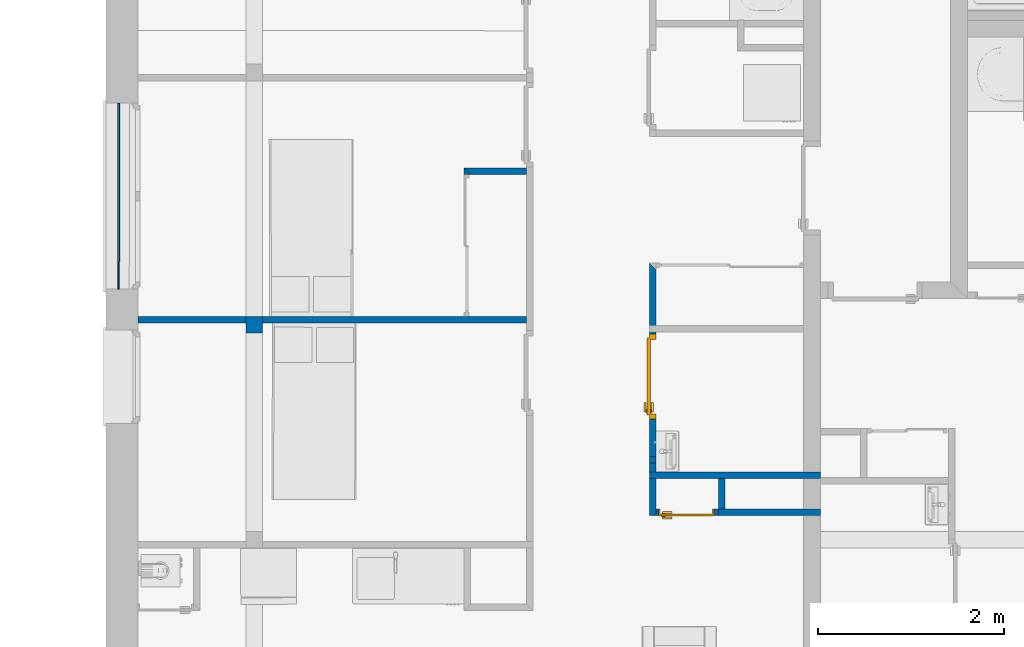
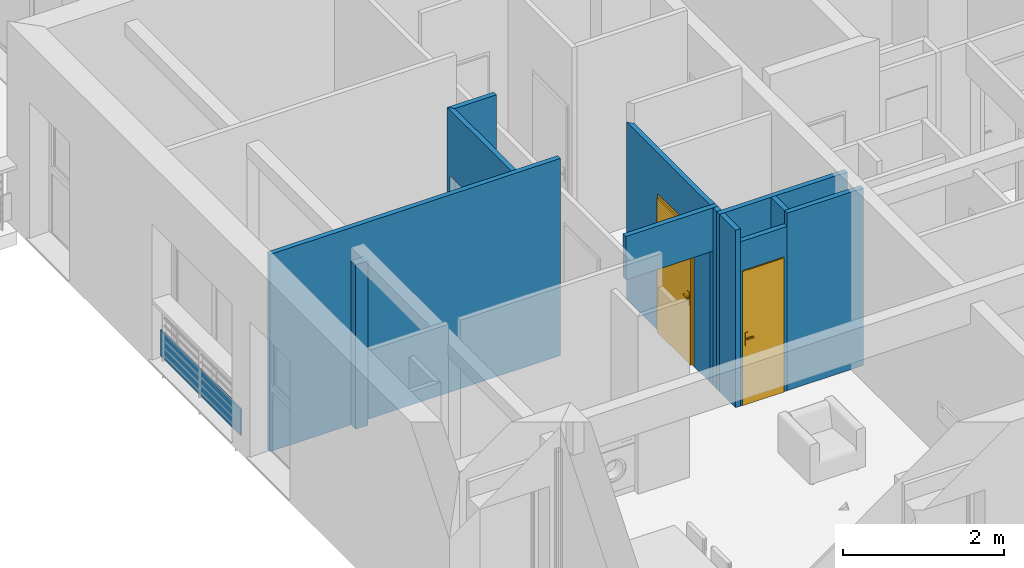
# One storey, part 11 of 165: 11 walls, 2 doors, 4 openings.
"""IFC2X3 building model written with IfcOpenShell, lengths in millimetres."""

from ifc_helpers import new_model, entity, si_unit, converted_unit, derived_unit, money_unit, direction, frame, origin_with_axes, origin_2d_with_axis, place, context, subcontext, project, spatial, polyline, rectangle, outline, extrude, faceted_brep, source, transform, mapped, material, layer, layer_set, layer_usage, type_object, element, fill, save


model = new_model("IFC2X3")

# Units and contexts
model_context = context("Model", 3, precision=0.01, world=origin_with_axes(), true_north=direction((0.0, 1.0)))
body_context = subcontext(model_context, "Body", "Model", "MODEL_VIEW")
ifc_project = project(units=[si_unit("LENGTHUNIT", "METRE", prefix="MILLI"), si_unit("AREAUNIT", "SQUARE_METRE"), si_unit("VOLUMEUNIT", "CUBIC_METRE"), converted_unit("PLANEANGLEUNIT", "DEGREE", entity("IfcPlaneAngleMeasure", 0.0174532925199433), si_unit("PLANEANGLEUNIT", "RADIAN"), dimensions=[0, 0, 0, 0, 0, 0, 0]), money_unit("USD"), converted_unit("TIMEUNIT", "Year", entity("IfcTimeMeasure", 31557600.0), si_unit("TIMEUNIT", "SECOND"), dimensions=[0, 0, 1, 0, 0, 0, 0]), si_unit("MASSUNIT", "GRAM", prefix="KILO"), si_unit("THERMODYNAMICTEMPERATUREUNIT", "DEGREE_CELSIUS"), si_unit("LUMINOUSINTENSITYUNIT", "LUMEN"), si_unit("ENERGYUNIT", "JOULE", prefix="MEGA"), derived_unit("THERMALCONDUCTANCEUNIT", [(si_unit("POWERUNIT", "WATT"), 1), (si_unit("LENGTHUNIT", "METRE"), -1), (si_unit("THERMODYNAMICTEMPERATUREUNIT", "KELVIN"), -1)]), derived_unit("SPECIFICHEATCAPACITYUNIT", [(si_unit("ENERGYUNIT", "JOULE"), 1), (si_unit("MASSUNIT", "GRAM", prefix="KILO"), -1), (si_unit("THERMODYNAMICTEMPERATUREUNIT", "KELVIN"), -1)]), derived_unit("MASSDENSITYUNIT", [(si_unit("MASSUNIT", "GRAM", prefix="KILO"), 1), (si_unit("VOLUMEUNIT", "CUBIC_METRE"), -1)])], contexts=[model_context])

# Site, building, storey
site_placement = place(None, origin_with_axes())
site = spatial("IfcSite", under=ifc_project, at=site_placement, Name="Site", CompositionType="ELEMENT")
building_placement = place(site_placement, origin_with_axes())
building = spatial("IfcBuilding", under=site, at=building_placement, Name="Bâtiment", CompositionType="ELEMENT")
storey_placement = place(building_placement, frame((0.0, 0.0, 8500.0), z_axis=(0.0, 0.0, 1.0), x_axis=(1.0, 0.0, 0.0)))
storey = spatial("IfcBuildingStorey", under=building, at=storey_placement, Name="Etage 2", CompositionType="ELEMENT", Elevation=8500.0)

# Wall
ifc_material_1 = material(Name="Hachure solide 268963992")
ifc_layer_1 = layer(ifc_material_1, 70.0, ventilated="UNKNOWN")
ifc_layer_set_1 = layer_set([ifc_layer_1], Name="Cloison 70 0826278243")
ifc_layer_usage_1 = layer_usage(ifc_layer_set_1, "AXIS2", "NEGATIVE", 70.0)
wall_type_1 = type_object("IfcWallType", Name="Cloison 70 0826278243 70", PredefinedType="NOTDEFINED")
wall_1_placement = place(storey_placement, frame((2221152.351167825, -649920.7866252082, 0.0), z_axis=(0.0, 0.0, 1.0), x_axis=(-1.0, 0.0, 0.0)))
element("IfcWallStandardCase", 1, at=wall_1_placement, inside=storey, type_object=wall_type_1, material=ifc_layer_usage_1, Name="Mur-149", context=body_context, shape_type="SweptSolid", body=[
    extrude(outline(polyline([(2.320837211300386e-05, 0.0), (4178.117826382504, 0.0), (4178.117826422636, 69.99999999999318), (2.348349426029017e-05, 69.99999999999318), (2.320837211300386e-05, 0.0)])), origin_with_axes(), (0.0, 0.0, 1.0), 3000.0),
])

# Wall, opening
ifc_layer_usage_2 = layer_usage(ifc_layer_set_1, "AXIS2", "NEGATIVE", 70.0)
wall_2_placement = place(storey_placement, frame((2220482.351167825, -648325.5587458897, 0.0), z_axis=(0.0, 0.0, 1.0), x_axis=(0.0, -1.0, 0.0)))
wall_2 = element("IfcWallStandardCase", 2, at=wall_2_placement, inside=storey, type_object=wall_type_1, material=ifc_layer_usage_2, Name="Mur-149", context=body_context, shape_type="SweptSolid", body=[
    extrude(outline(polyline([(0.0, 0.0), (1595.227879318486, 0.0), (1595.227879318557, 70.00000000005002), (70.00000000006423, 70.00000000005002), (0.0, 0.0)])), origin_with_axes(), (0.0, 0.0, 1.0), 3000.0),
])
opening_1_placement = place(wall_2_placement, frame((832.613939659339, 1.13686837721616e-09, 0.0), z_axis=(0.0, 0.0, 1.0), x_axis=(1.0, 0.0, 0.0)))
element("IfcOpeningElement", 3, at=opening_1_placement, cuts=wall_2, Name="Por-322", context=body_context, shape_type="SweptSolid", body=[
    extrude(rectangle(XDim=1525.227879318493, YDim=2000.0, at=origin_2d_with_axis()), frame((0.0, -9.094947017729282e-10, 1000.0), z_axis=(0.0, 1.0, 0.0), x_axis=(1.0, 0.0, 0.0)), (0.0, 0.0, -1.0), 70.0),
    extrude(rectangle(XDim=1525.227879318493, YDim=2000.0, at=origin_2d_with_axis()), frame((0.0, -9.094947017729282e-10, 1000.0), z_axis=(0.0, -1.0, 0.0), x_axis=(1.0, 0.0, 0.0)), (0.0, 0.0, -1.0), 70.0),
])

ifc_layer_usage_3 = layer_usage(ifc_layer_set_1, "AXIS2", "NEGATIVE", 70.0)
wall_3_placement = place(storey_placement, frame((2222542.351167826, -651428.3834312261, 0.0), z_axis=(0.0, 0.0, 1.0), x_axis=(-1.0, 0.0, 0.0)))
wall_3 = element("IfcWallStandardCase", 4, at=wall_3_placement, inside=storey, type_object=wall_type_1, material=ifc_layer_usage_3, Name="Mur-149", context=body_context, shape_type="SweptSolid", body=[
    extrude(outline(polyline([(0.0, 0.0), (1320.000029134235, 0.0), (1320.000029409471, 69.99999999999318), (0.0, 69.99999999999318), (0.0, 0.0)])), origin_with_axes(), (0.0, 0.0, 1.0), 2700.0),
])
opening_2_placement = place(wall_3_placement, frame((695.1363127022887, 0.0, 0.0), z_axis=(0.0, 0.0, 1.0), x_axis=(1.0, 0.0, 0.0)))
element("IfcOpeningElement", 5, at=opening_2_placement, cuts=wall_3, Name="Por-282", context=body_context, shape_type="SweptSolid", body=[
    extrude(rectangle(XDim=1249.727374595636, YDim=2039.999999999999, at=origin_2d_with_axis()), frame((0.0, 69.99999999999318, 1020.0), z_axis=(0.0, -1.0, 0.0), x_axis=(1.0, 0.0, 0.0)), (0.0, 0.0, -1.0), 70.0),
    extrude(rectangle(XDim=1249.727374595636, YDim=2039.999999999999, at=origin_2d_with_axis()), frame((0.0, 69.99999999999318, 1020.0), z_axis=(0.0, 1.0, 0.0), x_axis=(1.0, 0.0, 0.0)), (0.0, 0.0, -1.0), 70.0),
])

# Wall, opening, door
ifc_layer_usage_4 = layer_usage(ifc_layer_set_1, "AXIS2", "NEGATIVE", 70.0)
wall_4_placement = place(storey_placement, frame((2222472.351121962, -649348.3912270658, 0.0), z_axis=(0.0, 0.0, 1.0), x_axis=(-0.0001252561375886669, -0.99999999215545, 0.0)))
wall_4 = element("IfcWallStandardCase", 6, at=wall_4_placement, inside=storey, type_object=wall_type_1, material=ifc_layer_usage_4, Name="Mur-149", context=body_context, shape_type="SweptSolid", body=[
    extrude(outline(polyline([(0.0, 0.0), (2714.992225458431, 0.0), (2714.992225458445, 69.99999999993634), (69.9912326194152, 69.99999999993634), (0.0, 0.0)])), origin_with_axes(), (0.0, 0.0, 1.0), 2700.0),
])
opening_3_placement = place(wall_4_placement, frame((1220.391894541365, 0.0, 0.0), z_axis=(0.0, 0.0, 1.0), x_axis=(1.0, 0.0, 0.0)))
opening_3 = element("IfcOpeningElement", 7, at=opening_3_placement, cuts=wall_4, Name="Por-283", context=body_context, shape_type="SweptSolid", body=[
    extrude(rectangle(XDim=910.0, YDim=2080.0, at=origin_2d_with_axis()), frame((0.0, 69.99999999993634, 1039.999999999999), z_axis=(0.0, -1.0, 0.0), x_axis=(-1.0, 0.0, 0.0)), (0.0, 0.0, 1.0), 140.0),
])
door_style = type_object("IfcDoorStyle", Name="Porte_1v", ConstructionType="NOTDEFINED", OperationType="NOTDEFINED", ParameterTakesPrecedence=False, Sizeable=False)
shared_shape_1 = source(origin_with_axes(), body_context, "Body", "Brep", [
    faceted_brep([(454.9999999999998, 0.0, 0.0), (414.9999999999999, 0.0, 0.0), (414.9999999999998, 0.0, 2040.0), (-414.9999999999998, 0.0, 2040.0), (-414.9999999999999, 0.0, 0.0), (-454.9999999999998, 0.0, 0.0), (-454.9999999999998, 0.0, 2080.0), (454.9999999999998, 0.0, 2080.0), (454.9999999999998, -69.99999999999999, 0.0), (399.9999999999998, -69.99999999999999, 0.0), (399.9999999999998, -15.0, 0.0), (414.9999999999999, -15.0, 0.0), (414.9999999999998, -15.0, 2040.0), (-414.9999999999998, -15.0, 2040.0), (-414.9999999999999, -15.0, 0.0), (-399.9999999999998, -15.0, 0.0), (-399.9999999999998, -69.99999999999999, 0.0), (-454.9999999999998, -69.99999999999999, 0.0), (-454.9999999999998, -69.99999999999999, 2080.0), (454.9999999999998, -69.99999999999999, 2080.0), (-399.9999999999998, -69.99999999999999, 2025.0), (399.9999999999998, -69.99999999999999, 2025.0), (399.9999999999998, -15.0, 2025.0), (-399.9999999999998, -15.0, 2025.0)], [[[0, 1, 2, 3, 4, 5, 6, 7]], [[0, 8, 9, 10, 11, 1]], [[1, 11, 12, 2]], [[2, 12, 13, 3]], [[3, 13, 14, 4]], [[5, 4, 14, 15, 16, 17]], [[18, 6, 5, 17]], [[19, 7, 6, 18]], [[8, 0, 7, 19]], [[9, 8, 19, 18, 17, 16, 20, 21]], [[10, 9, 21, 22]], [[11, 10, 22, 23, 15, 14, 13, 12]], [[23, 20, 16, 15]], [[22, 21, 20, 23]]]),
    faceted_brep([(-349.9999999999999, -15.0, 900.0), (-389.9999999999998, -15.0, 900.0), (-389.9999999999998, -15.0, 1100.0), (-349.9999999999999, -15.0, 1100.0), (-349.9999999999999, -24.99999999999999, 900.0), (-389.9999999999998, -24.99999999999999, 900.0), (-389.9999999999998, -24.99999999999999, 1100.0), (-349.9999999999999, -24.99999999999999, 1100.0)], [[[0, 1, 2, 3]], [[1, 0, 4, 5]], [[2, 1, 5, 6]], [[3, 2, 6, 7]], [[0, 3, 7, 4]], [[5, 4, 7, 6]]]),
    faceted_brep([(-279.9999999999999, -24.99999999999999, 1000.0), (-379.9999999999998, -24.99999999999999, 1000.0), (-379.9999999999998, -24.99999999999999, 1020.0), (-279.9999999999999, -24.99999999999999, 1020.0), (-279.9999999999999, -44.99999999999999, 1000.0), (-379.9999999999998, -44.99999999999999, 1000.0), (-379.9999999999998, -44.99999999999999, 1020.0), (-279.9999999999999, -44.99999999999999, 1020.0)], [[[0, 1, 2, 3]], [[1, 0, 4, 5]], [[2, 1, 5, 6]], [[3, 2, 6, 7]], [[0, 3, 7, 4]], [[5, 4, 7, 6]]]),
    faceted_brep([(-349.9999999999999, 34.99999999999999, 900.0), (-389.9999999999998, 34.99999999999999, 900.0), (-389.9999999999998, 34.99999999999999, 1100.0), (-349.9999999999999, 34.99999999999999, 1100.0), (-349.9999999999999, 24.99999999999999, 900.0), (-389.9999999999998, 24.99999999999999, 900.0), (-389.9999999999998, 24.99999999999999, 1100.0), (-349.9999999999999, 24.99999999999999, 1100.0)], [[[0, 1, 2, 3]], [[1, 0, 4, 5]], [[2, 1, 5, 6]], [[3, 2, 6, 7]], [[0, 3, 7, 4]], [[5, 4, 7, 6]]]),
    faceted_brep([(-279.9999999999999, 54.99999999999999, 1000.0), (-379.9999999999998, 54.99999999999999, 1000.0), (-379.9999999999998, 54.99999999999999, 1020.0), (-279.9999999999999, 54.99999999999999, 1020.0), (-279.9999999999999, 34.99999999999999, 1000.0), (-379.9999999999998, 34.99999999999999, 1000.0), (-379.9999999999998, 34.99999999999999, 1020.0), (-279.9999999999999, 34.99999999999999, 1020.0)], [[[0, 1, 2, 3]], [[1, 0, 4, 5]], [[2, 1, 5, 6]], [[3, 2, 6, 7]], [[0, 3, 7, 4]], [[5, 4, 7, 6]]]),
    faceted_brep([(-414.9999999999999, 24.99999999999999, 0.0), (414.9999999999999, 24.99999999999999, 0.0), (414.9999999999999, -15.0, 0.0), (-414.9999999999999, -15.0, 0.0), (-414.9999999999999, 24.99999999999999, 2040.0), (414.9999999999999, 24.99999999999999, 2040.0), (414.9999999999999, -15.0, 2040.0), (-414.9999999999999, -15.0, 2040.0)], [[[0, 1, 2, 3]], [[0, 4, 5, 1]], [[1, 5, 6, 2]], [[3, 2, 6, 7]], [[4, 0, 3, 7]], [[5, 4, 7, 6]]]),
])
door_1_placement = place(opening_3_placement, frame((415.0000000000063, -1.13686837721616e-10, 0.0), z_axis=(0.0, 0.0, 1.0), x_axis=(-1.0, 0.0, 0.0)))
door_1 = element("IfcDoor", 8, at=door_1_placement, inside=storey, type_object=door_style, Name="Por-283", OverallHeight=2040.0, OverallWidth=830.0, context=body_context, shape_type="MappedRepresentation", body=[
    mapped(shared_shape_1, transform((415.0000000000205, 0.0, 0.0))),
])
fill(opening_3, door_1)

# Walls
ifc_layer_usage_5 = layer_usage(ifc_layer_set_1, "AXIS2", "NEGATIVE", 70.0)
wall_5_placement = place(storey_placement, frame((2221152.351167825, -648325.5587458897, 0.0), z_axis=(0.0, 0.0, 1.0), x_axis=(-1.0, 0.0, 0.0)))
element("IfcWallStandardCase", 9, at=wall_5_placement, inside=storey, type_object=wall_type_1, material=ifc_layer_usage_5, Name="Mur-149", context=body_context, shape_type="SweptSolid", body=[
    extrude(outline(polyline([(1.693797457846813e-05, 0.0), (669.9999999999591, 0.0), (599.9999999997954, 69.99999999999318), (1.721321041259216e-05, 69.99999999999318), (1.693797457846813e-05, 0.0)])), origin_with_axes(), (0.0, 0.0, 1.0), 3000.0),
])
ifc_layer_usage_6 = layer_usage(ifc_layer_set_1, "AXIS2", "NEGATIVE", 70.0)
wall_6_placement = place(storey_placement, frame((2224312.346626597, -651993.3834312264, 0.0), z_axis=(0.0, 0.0, 1.0), x_axis=(-1.0, 0.0, 0.0)))
element("IfcWallStandardCase", 10, at=wall_6_placement, inside=storey, type_object=wall_type_1, material=ifc_layer_usage_6, Name="Mur-149", context=body_context, shape_type="SweptSolid", body=[
    extrude(outline(polyline([(0.0, 0.0), (1096.672255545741, 0.0), (1096.672255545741, 69.99999999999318), (0.0, 69.99999999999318), (0.0, 0.0)])), origin_with_axes(), (0.0, 0.0, 1.0), 2700.0),
])
ifc_layer_usage_7 = layer_usage(ifc_layer_set_1, "AXIS2", "POSITIVE", -70.0)
wall_7_placement = place(storey_placement, frame((2223215.674371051, -651993.3834312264, 0.0), z_axis=(0.0, 0.0, 1.0), x_axis=(0.0, 1.0, 0.0)))
element("IfcWallStandardCase", 11, at=wall_7_placement, inside=storey, type_object=wall_type_1, material=ifc_layer_usage_7, Name="Mur-149", context=body_context, shape_type="SweptSolid", body=[
    extrude(outline(polyline([(0.0, -70.00000000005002), (330.0000000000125, -70.00000000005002), (330.0000000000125, 0.0), (0.0, 0.0), (0.0, -70.00000000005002)])), origin_with_axes(), (0.0, 0.0, 1.0), 2700.0),
])
ifc_layer_usage_8 = layer_usage(ifc_layer_set_1, "AXIS2", "NEGATIVE", 70.0)
wall_8_placement = place(storey_placement, frame((2224312.348514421, -651593.3834312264, 0.0), z_axis=(0.0, 0.0, 1.0), x_axis=(-1.0, 0.0, 0.0)))
element("IfcWallStandardCase", 12, at=wall_8_placement, inside=storey, type_object=wall_type_1, material=ifc_layer_usage_8, Name="Mur-149", context=body_context, shape_type="SweptSolid", body=[
    extrude(outline(polyline([(0.0, 0.0), (1840.291594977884, 0.0), (1840.291594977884, 69.99999999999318), (0.0, 69.99999999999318), (0.0, 0.0)])), origin_with_axes(), (0.0, 0.0, 1.0), 2700.0),
])

# Wall, opening, door
ifc_layer_usage_9 = layer_usage(ifc_layer_set_1, "AXIS2", "NEGATIVE", 70.0)
wall_9_placement = place(storey_placement, frame((2223215.674371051, -651993.3834312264, 0.0), z_axis=(0.0, 0.0, 1.0), x_axis=(-1.0, 0.0, 0.0)))
wall_9 = element("IfcWallStandardCase", 13, at=wall_9_placement, inside=storey, type_object=wall_type_1, material=ifc_layer_usage_9, Name="Mur-149", context=body_context, shape_type="SweptSolid", body=[
    extrude(outline(polyline([(0.0, 0.0), (673.6545500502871, 0.0), (673.663317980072, 69.99999999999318), (0.0, 69.99999999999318), (0.0, 0.0)])), origin_with_axes(), (0.0, 0.0, 1.0), 2500.0),
])
opening_4_placement = place(wall_9_placement, frame((345.8196076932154, 0.0, 0.0), z_axis=(0.0, 0.0, 1.0), x_axis=(1.0, 0.0, 0.0)))
opening_4 = element("IfcOpeningElement", 14, at=opening_4_placement, cuts=wall_9, Name="Por-274", context=body_context, shape_type="SweptSolid", body=[
    extrude(rectangle(XDim=600.0000000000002, YDim=2050.000000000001, at=origin_2d_with_axis()), frame((0.0, -69.99999999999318, 1025.0), z_axis=(0.0, -1.0, 0.0), x_axis=(-1.0, 0.0, 0.0)), (0.0, 0.0, -1.0), 140.0),
])
shared_shape_2 = source(origin_with_axes(), body_context, "Body", "Brep", [
    faceted_brep([(-300.0, 0.0, 0.0), (-300.0, 0.0, 2050.0), (300.0, 0.0, 2050.0), (300.0, 0.0, 0.0), (290.0, 0.0, 0.0), (290.0, 0.0, 2040.0), (-290.0, 0.0, 2040.0), (-290.0, 0.0, 0.0), (-300.0, -70.0, 0.0), (-300.0, -70.0, 2050.0), (300.0, -70.0, 2050.0), (300.0, -70.0, 0.0), (279.9999999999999, -70.0, 0.0), (279.9999999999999, -15.0, 0.0), (290.0, -15.0, 0.0), (290.0, -15.0, 2040.0), (-290.0, -15.0, 2040.0), (-290.0, -15.0, 0.0), (-279.9999999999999, -15.0, 0.0), (-279.9999999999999, -70.0, 0.0), (-279.9999999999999, -70.0, 2030.0), (279.9999999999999, -70.0, 2030.0), (279.9999999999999, -15.0, 2030.0), (-279.9999999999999, -15.0, 2030.0)], [[[0, 1, 2, 3, 4, 5, 6, 7]], [[8, 9, 1, 0]], [[9, 10, 2, 1]], [[10, 11, 3, 2]], [[3, 11, 12, 13, 14, 4]], [[5, 4, 14, 15]], [[6, 5, 15, 16]], [[7, 6, 16, 17]], [[0, 7, 17, 18, 19, 8]], [[19, 20, 21, 12, 11, 10, 9, 8]], [[22, 13, 12, 21]], [[17, 16, 15, 14, 13, 22, 23, 18]], [[18, 23, 20, 19]], [[23, 22, 21, 20]]]),
    faceted_brep([(224.9999999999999, -15.0, 900.0), (224.9999999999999, -15.0, 1100.0), (264.9999999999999, -15.0, 1100.0), (264.9999999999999, -15.0, 900.0), (224.9999999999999, -25.0, 900.0), (224.9999999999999, -25.0, 1100.0), (264.9999999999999, -25.0, 1100.0), (264.9999999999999, -25.0, 900.0)], [[[0, 1, 2, 3]], [[0, 4, 5, 1]], [[1, 5, 6, 2]], [[2, 6, 7, 3]], [[3, 7, 4, 0]], [[7, 6, 5, 4]]]),
    faceted_brep([(154.9999999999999, -25.0, 1000.0), (154.9999999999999, -25.0, 1020.0), (254.9999999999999, -25.0, 1020.0), (254.9999999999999, -25.0, 1000.0), (154.9999999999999, -45.0, 1000.0), (154.9999999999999, -45.0, 1020.0), (254.9999999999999, -45.0, 1020.0), (254.9999999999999, -45.0, 1000.0)], [[[0, 1, 2, 3]], [[0, 4, 5, 1]], [[1, 5, 6, 2]], [[2, 6, 7, 3]], [[3, 7, 4, 0]], [[7, 6, 5, 4]]]),
    faceted_brep([(224.9999999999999, 15.0, 900.0), (224.9999999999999, 15.0, 1100.0), (264.9999999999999, 15.0, 1100.0), (264.9999999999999, 15.0, 900.0), (224.9999999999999, 5.000000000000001, 900.0), (224.9999999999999, 5.000000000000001, 1100.0), (264.9999999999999, 5.000000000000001, 1100.0), (264.9999999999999, 5.000000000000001, 900.0)], [[[0, 1, 2, 3]], [[0, 4, 5, 1]], [[1, 5, 6, 2]], [[2, 6, 7, 3]], [[3, 7, 4, 0]], [[7, 6, 5, 4]]]),
    faceted_brep([(154.9999999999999, 35.0, 1000.0), (154.9999999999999, 35.0, 1020.0), (254.9999999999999, 35.0, 1020.0), (254.9999999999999, 35.0, 1000.0), (154.9999999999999, 15.0, 1000.0), (154.9999999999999, 15.0, 1020.0), (254.9999999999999, 15.0, 1020.0), (254.9999999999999, 15.0, 1000.0)], [[[0, 1, 2, 3]], [[0, 4, 5, 1]], [[1, 5, 6, 2]], [[2, 6, 7, 3]], [[3, 7, 4, 0]], [[7, 6, 5, 4]]]),
    faceted_brep([(290.0, 5.000000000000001, 0.0), (290.0, -15.0, 0.0), (-290.0, -15.0, 0.0), (-290.0, 5.000000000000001, 0.0), (290.0, 5.000000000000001, 2040.0), (290.0, -15.0, 2040.0), (-290.0, -15.0, 2040.0), (-290.0, 5.000000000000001, 2040.0)], [[[0, 1, 2, 3]], [[4, 5, 1, 0]], [[1, 5, 6, 2]], [[3, 2, 6, 7]], [[0, 3, 7, 4]], [[7, 6, 5, 4]]]),
])
door_2_placement = place(opening_4_placement, frame((-289.9999999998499, 0.0, 0.0), z_axis=(0.0, 0.0, 1.0), x_axis=(1.0, 0.0, 0.0)))
door_2 = element("IfcDoor", 15, at=door_2_placement, inside=storey, type_object=door_style, Name="Por-274", OverallHeight=2040.0, OverallWidth=580.0, context=body_context, shape_type="MappedRepresentation", body=[
    mapped(shared_shape_2, transform((289.9999999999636, 69.99999999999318, 0.0))),
])
fill(opening_4, door_2)

# Walls
ifc_material_2 = material(Name="MANQUANT")
ifc_layer_2 = layer(ifc_material_2, 20.0, ventilated="UNKNOWN")
ifc_layer_set_2 = layer_set([ifc_layer_2], Name="MANQUANT 20")
ifc_layer_usage_10 = layer_usage(ifc_layer_set_2, "AXIS2", "POSITIVE", -20.0)
wall_type_2 = type_object("IfcWallType", Name="MANQUANT 20", PredefinedType="NOTDEFINED")
wall_10_placement = place(storey_placement, frame((2216757.820133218, -649629.8666009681, 99.99999999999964), z_axis=(0.0, 0.0, 1.0), x_axis=(0.0007973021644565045, 0.9999996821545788, 0.0)))
element("IfcWallStandardCase", 16, at=wall_10_placement, inside=storey, type_object=wall_type_2, material=ifc_layer_usage_10, Name="Mur-150", context=body_context, shape_type="SweptSolid", body=[
    extrude(outline(polyline([(0.0, -19.99999999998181), (1999.999999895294, -20.0000000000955), (1999.999999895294, -1.13686837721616e-10), (0.0, 0.0), (0.0, -19.99999999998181)])), origin_with_axes(), (0.0, 0.0, 1.0), 400.0),
])
ifc_material_3 = material(Name="Parpaing 312445824")
ifc_layer_3 = layer(ifc_material_3, 180.0, ventilated="UNKNOWN")
ifc_layer_set_3 = layer_set([ifc_layer_3], Name="Beton  18 0836643197")
ifc_layer_usage_11 = layer_usage(ifc_layer_set_3, "AXIS2", "NEGATIVE", 0.0)
wall_type_3 = type_object("IfcWallType", Name="Beton  18 0836643197 180", PredefinedType="NOTDEFINED")
wall_11_placement = place(storey_placement, frame((2218314.283230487, -650100.7866252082, 0.0), z_axis=(0.0, 0.0, 1.0), x_axis=(-1.0, 0.0, 0.0)))
element("IfcWallStandardCase", 17, at=wall_11_placement, inside=storey, type_object=wall_type_3, material=ifc_layer_usage_11, Name="Mur-143", context=body_context, shape_type="SweptSolid", body=[
    extrude(outline(polyline([(0.0, -180.0000000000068), (176.0640015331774, -180.0000000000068), (176.0640015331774, 0.0), (0.0, 0.0), (0.0, -180.0000000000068)])), origin_with_axes(), (0.0, 0.0, 1.0), 2500.0),
])

save(model, "model.ifc")
